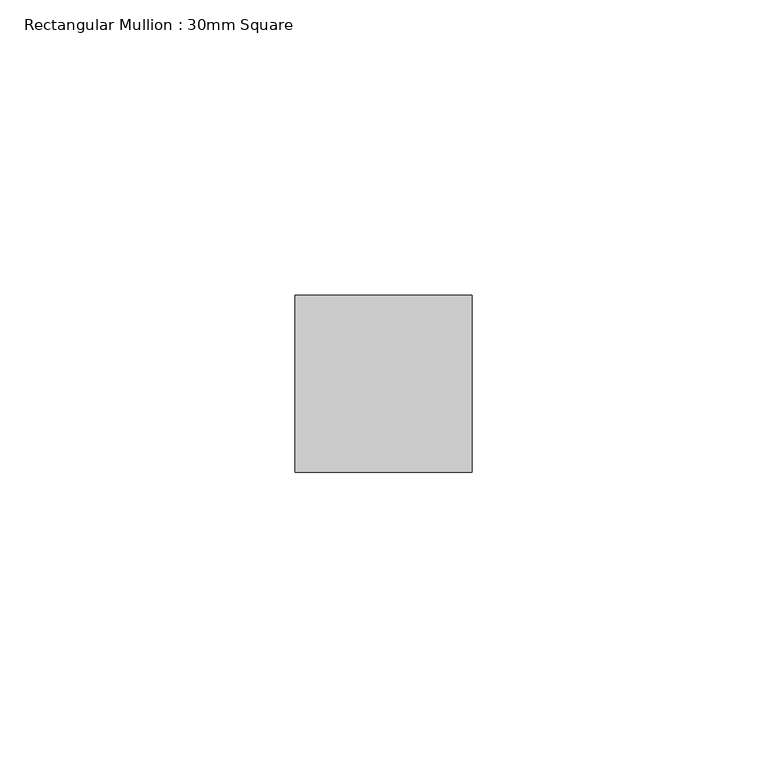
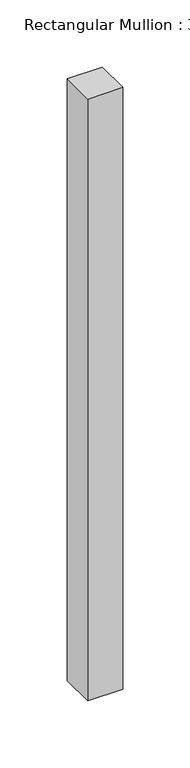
"""IFC4 building model written with IfcOpenShell, lengths in millimetres: member geometry, Rectangular Mullion : 30mm Square."""

from ifc_helpers import new_model, si_unit, frame, origin, place, context, project, spatial, polyline, outline, extrude, source, transform, mapped, element, save


def rectangular_mullion_30mm_square_a71511a0(model_context):
    return source(origin(), model_context, "Body", "SweptSolid", [
        extrude(outline(polyline([(0.0, 15.0), (0.0, -15.0), (-30.0, -15.0), (-30.0, 15.0), (0.0, 15.0)])), frame((0.0, 0.0, -545.0), z_axis=(0.0, 0.0, 1.0), x_axis=(1.0, 0.0, 0.0)), (0.0, 0.0, 1.0), 545.0),
    ])


if __name__ == "__main__":
    model = new_model("IFC4")
    model_context = context("Model", 3, world=origin())
    ifc_project = project(units=[si_unit("LENGTHUNIT", "METRE", prefix="MILLI")], contexts=[model_context])
    site = spatial("IfcSite", under=ifc_project)
    building = spatial("IfcBuilding", under=site)
    placement = place(None, origin())
    rectangular_mullion_30mm_square_shape = rectangular_mullion_30mm_square_a71511a0(model_context)
    element("IfcMember", 1, ObjectType="Rectangular Mullion : 30mm Square", at=placement, inside=building, context=model_context, shape_type="MappedRepresentation", body=[
        mapped(rectangular_mullion_30mm_square_shape, transform((0.0, 0.0, 0.0), x_axis=(1.0, 0.0, 0.0), y_axis=(0.0, 1.0, 0.0), z_axis=(0.0, 0.0, 1.0))),
    ])
    save(model, "model.ifc")
